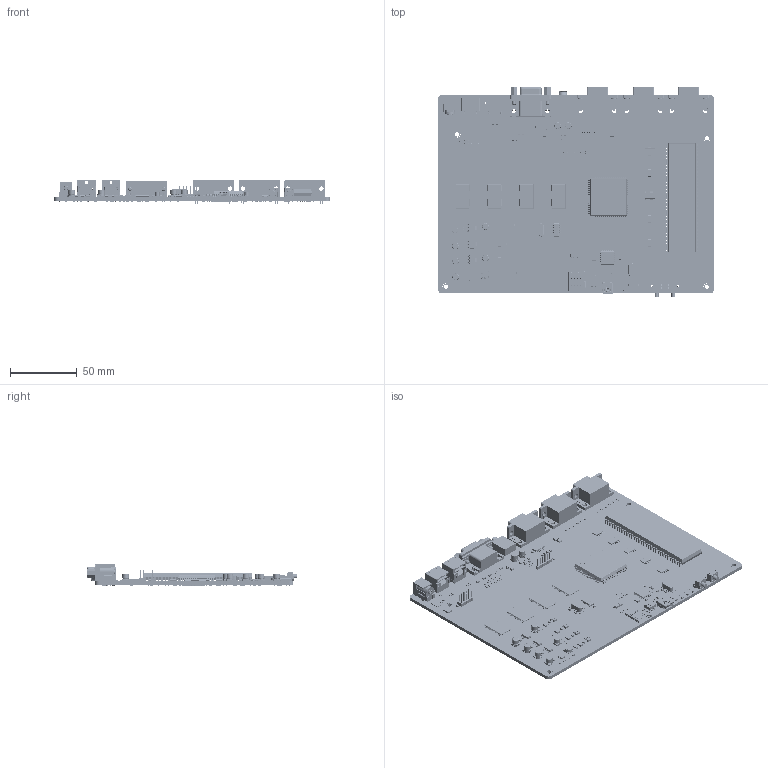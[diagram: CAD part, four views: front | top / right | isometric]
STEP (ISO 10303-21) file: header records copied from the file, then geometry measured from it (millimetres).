
FILE_DESCRIPTION(('KiCad electronic assembly'),'2;1');
FILE_NAME('Minimig196.step','2023-05-16T10:41:28',('Pcbnew'),('Kicad'), 'Open CASCADE STEP processor 7.5','KiCad to STEP converter','Unknown' );
FILE_SCHEMA(('AUTOMOTIVE_DESIGN { 1 0 10303 214 1 1 1 1 }'));
Length unit declared in the file: millimetre
Products named in the file (66): Minimig196 1; R_0805_2012Metric; SOLID; C_0805_2012Metric; SN74CBTD3384CPWR; COMPOUND; MC68000P10; SOT-23; CP_EIA-3528-12_Kemet-T; L_1206_3216Metric; LED_0805_2012Metric; CP_Elec_5x5.3; SOIC127P600X175-16N; DSUB-9_Female_Horizontal_P2.77x2.84mm_EdgePinOffset9.90mm_Housed_
MountingHolesOffset11.32mm; SW_SPDT_PCM12; L_TDK_SLF6028; AS6C8016-55ZIN; LM1117MP-ADJ; XC3S400-4PQ208C; CUI_DEVICES_MD-60SM; HTSOP-8-1EP_3.9x4.9mm_P1.27mm_EP2.4x3.2mm; MEM2051-00-195-00-A_REVD1; R_2816_7142Metric; CUI_DEVICES_SJ1-3514; SW_Tactile_SPST_Angled_PTS645Vx58-2LFS; D0016A; 2x1_POWERDI-5_SBRT10U50SP5_DIO; CUI_DEVICES_DS04-254-2-02BK-SMT-TR; L77HDE15SD1CH4F-manga4; PinHeader_1x06_P2.54mm_Vertical; Crystal_SMD_HC49-SD; 651305142821_Download_STP_651305142821_rev1; PinHeader_2x05_P2.54mm_Vertical; AT91SAM7S256D-AU-999; RAPC712X--3DModel-STEP-56544; _autosave-Minimig196 PCB
Assembly tree (369 placements, depth 3):
  Minimig196 1
    R_0805_2012Metric  x136
      SOLID
    C_0805_2012Metric  x120
      SOLID
    SN74CBTD3384CPWR  x5
      COMPOUND
    MC68000P10
      COMPOUND
    SOT-23  x8
      SOLID
    CP_EIA-3528-12_Kemet-T  x11
      SOLID
    L_1206_3216Metric  x4
      SOLID
    LED_0805_2012Metric  x8
      SOLID
    CP_Elec_5x5.3  x8
      SOLID
    SOIC127P600X175-16N
      COMPOUND
    DSUB-9_Female_Horizontal_P2.77x2.84mm_EdgePinOffset9.90mm_Housed_
MountingHolesOffset11.32mm  x3
      SOLID
    SW_SPDT_PCM12  x3
      SOLID
    L_TDK_SLF6028
      SOLID
    AS6C8016-55ZIN  x4
      COMPOUND
    LM1117MP-ADJ  x3
      COMPOUND
    XC3S400-4PQ208C
      COMPOUND
    CUI_DEVICES_MD-60SM  x2
      COMPOUND
    HTSOP-8-1EP_3.9x4.9mm_P1.27mm_EP2.4x3.2mm
      SOLID
    MEM2051-00-195-00-A_REVD1
      COMPOUND
    R_2816_7142Metric
      SOLID
    CUI_DEVICES_SJ1-3514
      COMPOUND
    SW_Tactile_SPST_Angled_PTS645Vx58-2LFS  x2
      SOLID
    D0016A
      COMPOUND
    2x1_POWERDI-5_SBRT10U50SP5_DIO
      COMPOUND
    CUI_DEVICES_DS04-254-2-02BK-SMT-TR
      COMPOUND
    L77HDE15SD1CH4F-manga4
      SOLID
    PinHeader_1x06_P2.54mm_Vertical
      SOLID
    Crystal_SMD_HC49-SD  x2
      SOLID
    651305142821_Download_STP_651305142821_rev1
      COMPOUND
    PinHeader_2x05_P2.54mm_Vertical
Bounding box: 206 x 156.93 x 18.2 mm (x, y, z)
Volume: 117747.6 mm3; surface area: 109833.4 mm2
Topology: 1084 solids, 1086 shells, 26292 faces, 68210 edges, 44312 vertices
Faces by surface type: plane 17653, cylinder 7201, bspline 862, cone 266, torus 224, sphere 74, revolution 12
Full cylindrical faces by diameter (mm): 0.2 x1, 0.404 x1, 0.487 x1, 0.5 x32, 0.64 x27, 0.73 x64, 0.8 x29, 0.853 x27, 0.9 x23, 0.99 x4, 1 x78, 1.2 x19, 1.25 x1, 1.27 x4, 1.3 x4, 2.26 x2, 2.845 x14, 3.14 x2, 3.15 x2, 3.2 x16, 3.4 x2, 3.5 x3, 3.85 x2, 4 x10, 4.9 x2, 5 x20, 5.8 x1
Entity records: 1025319 total; most frequent: CARTESIAN_POINT 329596, DIRECTION 125715, LINE 84229, VECTOR 84229, ORIENTED_EDGE 68248, PCURVE 68248, DEFINITIONAL_REPRESENTATION 68248, EDGE_CURVE 34124
